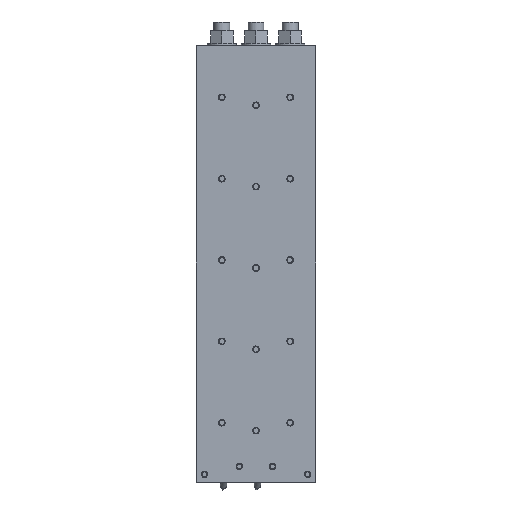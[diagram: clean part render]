
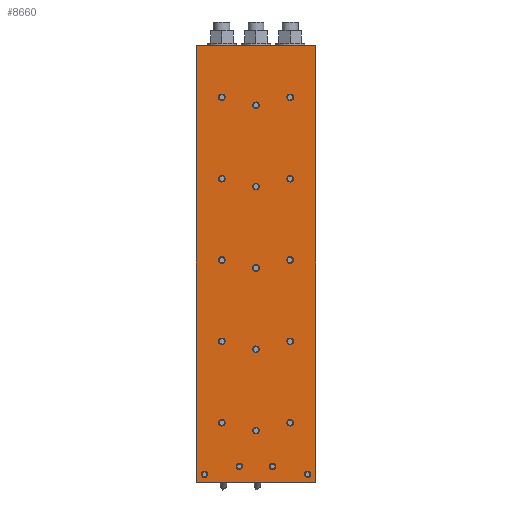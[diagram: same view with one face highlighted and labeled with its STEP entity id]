
A CAD part, top view. The second image highlights one B-rep face of the part: STEP entity #8660.
In plain terms, the highlighted planar face has unit normal (0, 0, 1).
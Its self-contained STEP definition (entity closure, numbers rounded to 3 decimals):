
#592=LINE('',#15161,#1080);
#595=LINE('',#15167,#1083);
#598=LINE('',#15173,#1086);
#601=LINE('',#15178,#1089);
#1080=VECTOR('',#12740,1000.);
#1083=VECTOR('',#12745,1000.);
#1086=VECTOR('',#12750,1000.);
#1089=VECTOR('',#12755,1000.);
#1613=PLANE('',#10304);
#3559=ORIENTED_EDGE('',*,*,#4634,.F.);
#3560=ORIENTED_EDGE('',*,*,#4635,.F.);
#3561=ORIENTED_EDGE('',*,*,#4636,.F.);
#3562=ORIENTED_EDGE('',*,*,#4637,.F.);
#3563=ORIENTED_EDGE('',*,*,#4638,.F.);
#3564=ORIENTED_EDGE('',*,*,#4639,.F.);
#3565=ORIENTED_EDGE('',*,*,#4640,.F.);
#3566=ORIENTED_EDGE('',*,*,#4641,.F.);
#3567=ORIENTED_EDGE('',*,*,#4642,.F.);
#3568=ORIENTED_EDGE('',*,*,#4643,.F.);
#3569=ORIENTED_EDGE('',*,*,#4644,.F.);
#3570=ORIENTED_EDGE('',*,*,#4645,.F.);
#3571=ORIENTED_EDGE('',*,*,#4646,.F.);
#3572=ORIENTED_EDGE('',*,*,#4647,.F.);
#3573=ORIENTED_EDGE('',*,*,#4648,.F.);
#3574=ORIENTED_EDGE('',*,*,#4649,.F.);
#3575=ORIENTED_EDGE('',*,*,#4650,.F.);
#3576=ORIENTED_EDGE('',*,*,#4651,.F.);
#3577=ORIENTED_EDGE('',*,*,#4652,.F.);
#3578=ORIENTED_EDGE('',*,*,#4624,.F.);
#3579=ORIENTED_EDGE('',*,*,#4633,.F.);
#3580=ORIENTED_EDGE('',*,*,#4630,.F.);
#3581=ORIENTED_EDGE('',*,*,#4627,.F.);
#4624=EDGE_CURVE('',#5427,#5428,#592,.T.);
#4627=EDGE_CURVE('',#5428,#5430,#595,.T.);
#4630=EDGE_CURVE('',#5430,#5432,#598,.T.);
#4633=EDGE_CURVE('',#5432,#5427,#601,.T.);
#4634=EDGE_CURVE('',#5433,#5433,#5798,.T.);
#4635=EDGE_CURVE('',#5434,#5434,#5799,.T.);
#4636=EDGE_CURVE('',#5435,#5435,#5800,.T.);
#4637=EDGE_CURVE('',#5436,#5436,#5801,.T.);
#4638=EDGE_CURVE('',#5437,#5437,#5802,.T.);
#4639=EDGE_CURVE('',#5438,#5438,#5803,.T.);
#4640=EDGE_CURVE('',#5439,#5439,#5804,.T.);
#4641=EDGE_CURVE('',#5440,#5440,#5805,.T.);
#4642=EDGE_CURVE('',#5441,#5441,#5806,.T.);
#4643=EDGE_CURVE('',#5442,#5442,#5807,.T.);
#4644=EDGE_CURVE('',#5443,#5443,#5808,.T.);
#4645=EDGE_CURVE('',#5444,#5444,#5809,.T.);
#4646=EDGE_CURVE('',#5445,#5445,#5810,.T.);
#4647=EDGE_CURVE('',#5446,#5446,#5811,.T.);
#4648=EDGE_CURVE('',#5447,#5447,#5812,.T.);
#4649=EDGE_CURVE('',#5448,#5448,#5813,.T.);
#4650=EDGE_CURVE('',#5449,#5449,#5814,.T.);
#4651=EDGE_CURVE('',#5450,#5450,#5815,.T.);
#4652=EDGE_CURVE('',#5451,#5451,#5816,.T.);
#5427=VERTEX_POINT('',#15160);
#5428=VERTEX_POINT('',#15162);
#5430=VERTEX_POINT('',#15168);
#5432=VERTEX_POINT('',#15174);
#5433=VERTEX_POINT('',#15181);
#5434=VERTEX_POINT('',#15183);
#5435=VERTEX_POINT('',#15185);
#5436=VERTEX_POINT('',#15187);
#5437=VERTEX_POINT('',#15189);
#5438=VERTEX_POINT('',#15191);
#5439=VERTEX_POINT('',#15193);
#5440=VERTEX_POINT('',#15195);
#5441=VERTEX_POINT('',#15197);
#5442=VERTEX_POINT('',#15199);
#5443=VERTEX_POINT('',#15201);
#5444=VERTEX_POINT('',#15203);
#5445=VERTEX_POINT('',#15205);
#5446=VERTEX_POINT('',#15207);
#5447=VERTEX_POINT('',#15209);
#5448=VERTEX_POINT('',#15211);
#5449=VERTEX_POINT('',#15213);
#5450=VERTEX_POINT('',#15215);
#5451=VERTEX_POINT('',#15217);
#5798=CIRCLE('',#10305,3.324);
#5799=CIRCLE('',#10306,3.324);
#5800=CIRCLE('',#10307,3.324);
#5801=CIRCLE('',#10308,3.324);
#5802=CIRCLE('',#10309,4.188);
#5803=CIRCLE('',#10310,4.188);
#5804=CIRCLE('',#10311,4.188);
#5805=CIRCLE('',#10312,4.188);
#5806=CIRCLE('',#10313,4.188);
#5807=CIRCLE('',#10314,4.188);
#5808=CIRCLE('',#10315,4.188);
#5809=CIRCLE('',#10316,4.188);
#5810=CIRCLE('',#10317,4.188);
#5811=CIRCLE('',#10318,4.188);
#5812=CIRCLE('',#10319,4.188);
#5813=CIRCLE('',#10320,4.188);
#5814=CIRCLE('',#10321,4.188);
#5815=CIRCLE('',#10322,4.188);
#5816=CIRCLE('',#10323,4.188);
#6808=EDGE_LOOP('',(#3559));
#6809=EDGE_LOOP('',(#3560));
#6810=EDGE_LOOP('',(#3561));
#6811=EDGE_LOOP('',(#3562));
#6812=EDGE_LOOP('',(#3563));
#6813=EDGE_LOOP('',(#3564));
#6814=EDGE_LOOP('',(#3565));
#6815=EDGE_LOOP('',(#3566));
#6816=EDGE_LOOP('',(#3567));
#6817=EDGE_LOOP('',(#3568));
#6818=EDGE_LOOP('',(#3569));
#6819=EDGE_LOOP('',(#3570));
#6820=EDGE_LOOP('',(#3571));
#6821=EDGE_LOOP('',(#3572));
#6822=EDGE_LOOP('',(#3573));
#6823=EDGE_LOOP('',(#3574));
#6824=EDGE_LOOP('',(#3575));
#6825=EDGE_LOOP('',(#3576));
#6826=EDGE_LOOP('',(#3577));
#6827=EDGE_LOOP('',(#3578,#3579,#3580,#3581));
#7918=FACE_BOUND('',#6808,.T.);
#7919=FACE_BOUND('',#6809,.T.);
#7920=FACE_BOUND('',#6810,.T.);
#7921=FACE_BOUND('',#6811,.T.);
#7922=FACE_BOUND('',#6812,.T.);
#7923=FACE_BOUND('',#6813,.T.);
#7924=FACE_BOUND('',#6814,.T.);
#7925=FACE_BOUND('',#6815,.T.);
#7926=FACE_BOUND('',#6816,.T.);
#7927=FACE_BOUND('',#6817,.T.);
#7928=FACE_BOUND('',#6818,.T.);
#7929=FACE_BOUND('',#6819,.T.);
#7930=FACE_BOUND('',#6820,.T.);
#7931=FACE_BOUND('',#6821,.T.);
#7932=FACE_BOUND('',#6822,.T.);
#7933=FACE_BOUND('',#6823,.T.);
#7934=FACE_BOUND('',#6824,.T.);
#7935=FACE_BOUND('',#6825,.T.);
#7936=FACE_BOUND('',#6826,.T.);
#7937=FACE_BOUND('',#6827,.T.);
#8660=ADVANCED_FACE('',(#7918,#7919,#7920,#7921,#7922,#7923,#7924,#7925,
#7926,#7927,#7928,#7929,#7930,#7931,#7932,#7933,#7934,#7935,#7936,#7937),
#1613,.F.);
#10304=AXIS2_PLACEMENT_3D('',#15179,#12756,#12757);
#10305=AXIS2_PLACEMENT_3D('',#15180,#12758,#12759);
#10306=AXIS2_PLACEMENT_3D('',#15182,#12760,#12761);
#10307=AXIS2_PLACEMENT_3D('',#15184,#12762,#12763);
#10308=AXIS2_PLACEMENT_3D('',#15186,#12764,#12765);
#10309=AXIS2_PLACEMENT_3D('',#15188,#12766,#12767);
#10310=AXIS2_PLACEMENT_3D('',#15190,#12768,#12769);
#10311=AXIS2_PLACEMENT_3D('',#15192,#12770,#12771);
#10312=AXIS2_PLACEMENT_3D('',#15194,#12772,#12773);
#10313=AXIS2_PLACEMENT_3D('',#15196,#12774,#12775);
#10314=AXIS2_PLACEMENT_3D('',#15198,#12776,#12777);
#10315=AXIS2_PLACEMENT_3D('',#15200,#12778,#12779);
#10316=AXIS2_PLACEMENT_3D('',#15202,#12780,#12781);
#10317=AXIS2_PLACEMENT_3D('',#15204,#12782,#12783);
#10318=AXIS2_PLACEMENT_3D('',#15206,#12784,#12785);
#10319=AXIS2_PLACEMENT_3D('',#15208,#12786,#12787);
#10320=AXIS2_PLACEMENT_3D('',#15210,#12788,#12789);
#10321=AXIS2_PLACEMENT_3D('',#15212,#12790,#12791);
#10322=AXIS2_PLACEMENT_3D('',#15214,#12792,#12793);
#10323=AXIS2_PLACEMENT_3D('',#15216,#12794,#12795);
#12740=DIRECTION('',(-1.,0.,0.));
#12745=DIRECTION('',(0.,1.,0.));
#12750=DIRECTION('',(1.,0.,0.));
#12755=DIRECTION('',(0.,-1.,0.));
#12756=DIRECTION('',(0.,0.,-1.));
#12757=DIRECTION('',(-1.,0.,0.));
#12758=DIRECTION('',(0.,0.,1.));
#12759=DIRECTION('',(1.,0.,0.));
#12760=DIRECTION('',(0.,0.,1.));
#12761=DIRECTION('',(1.,0.,0.));
#12762=DIRECTION('',(0.,0.,1.));
#12763=DIRECTION('',(1.,0.,0.));
#12764=DIRECTION('',(0.,0.,1.));
#12765=DIRECTION('',(1.,0.,0.));
#12766=DIRECTION('',(0.,0.,1.));
#12767=DIRECTION('',(1.,0.,0.));
#12768=DIRECTION('',(0.,0.,1.));
#12769=DIRECTION('',(1.,0.,0.));
#12770=DIRECTION('',(0.,0.,1.));
#12771=DIRECTION('',(1.,0.,0.));
#12772=DIRECTION('',(0.,0.,1.));
#12773=DIRECTION('',(1.,0.,0.));
#12774=DIRECTION('',(0.,0.,1.));
#12775=DIRECTION('',(1.,0.,0.));
#12776=DIRECTION('',(0.,0.,1.));
#12777=DIRECTION('',(1.,0.,0.));
#12778=DIRECTION('',(0.,0.,1.));
#12779=DIRECTION('',(1.,0.,0.));
#12780=DIRECTION('',(0.,0.,1.));
#12781=DIRECTION('',(1.,0.,0.));
#12782=DIRECTION('',(0.,0.,1.));
#12783=DIRECTION('',(1.,0.,0.));
#12784=DIRECTION('',(0.,0.,1.));
#12785=DIRECTION('',(1.,0.,0.));
#12786=DIRECTION('',(0.,0.,1.));
#12787=DIRECTION('',(1.,0.,0.));
#12788=DIRECTION('',(0.,0.,1.));
#12789=DIRECTION('',(1.,0.,0.));
#12790=DIRECTION('',(0.,0.,1.));
#12791=DIRECTION('',(1.,0.,0.));
#12792=DIRECTION('',(0.,0.,1.));
#12793=DIRECTION('',(1.,0.,0.));
#12794=DIRECTION('',(0.,0.,1.));
#12795=DIRECTION('',(1.,0.,0.));
#15160=CARTESIAN_POINT('',(153.51,0.398,20.));
#15161=CARTESIAN_POINT('',(150.,0.398,20.));
#15162=CARTESIAN_POINT('',(3.51,0.398,20.));
#15167=CARTESIAN_POINT('',(3.51,0.,20.));
#15168=CARTESIAN_POINT('',(3.51,550.398,20.));
#15173=CARTESIAN_POINT('',(0.,550.398,20.));
#15174=CARTESIAN_POINT('',(153.51,550.398,20.));
#15178=CARTESIAN_POINT('',(153.51,550.,20.));
#15179=CARTESIAN_POINT('',(0.,0.,20.));
#15180=CARTESIAN_POINT('',(99.51,19.464,20.));
#15181=CARTESIAN_POINT('',(102.833,19.464,20.));
#15182=CARTESIAN_POINT('',(57.51,20.396,20.));
#15183=CARTESIAN_POINT('',(60.833,20.396,20.));
#15184=CARTESIAN_POINT('',(13.51,10.398,20.));
#15185=CARTESIAN_POINT('',(16.833,10.398,20.));
#15186=CARTESIAN_POINT('',(143.51,10.398,20.));
#15187=CARTESIAN_POINT('',(146.833,10.398,20.));
#15188=CARTESIAN_POINT('',(78.51,475.4,20.));
#15189=CARTESIAN_POINT('',(82.698,475.4,20.));
#15190=CARTESIAN_POINT('',(78.51,372.9,20.));
#15191=CARTESIAN_POINT('',(82.698,372.9,20.));
#15192=CARTESIAN_POINT('',(78.51,270.4,20.));
#15193=CARTESIAN_POINT('',(82.698,270.4,20.));
#15194=CARTESIAN_POINT('',(78.51,167.9,20.));
#15195=CARTESIAN_POINT('',(82.698,167.9,20.));
#15196=CARTESIAN_POINT('',(78.51,65.4,20.));
#15197=CARTESIAN_POINT('',(82.698,65.4,20.));
#15198=CARTESIAN_POINT('',(121.51,75.398,20.));
#15199=CARTESIAN_POINT('',(125.698,75.398,20.));
#15200=CARTESIAN_POINT('',(121.51,177.898,20.));
#15201=CARTESIAN_POINT('',(125.698,177.898,20.));
#15202=CARTESIAN_POINT('',(121.51,280.398,20.));
#15203=CARTESIAN_POINT('',(125.698,280.398,20.));
#15204=CARTESIAN_POINT('',(121.51,382.898,20.));
#15205=CARTESIAN_POINT('',(125.698,382.898,20.));
#15206=CARTESIAN_POINT('',(121.51,485.398,20.));
#15207=CARTESIAN_POINT('',(125.698,485.398,20.));
#15208=CARTESIAN_POINT('',(35.51,485.398,20.));
#15209=CARTESIAN_POINT('',(39.698,485.398,20.));
#15210=CARTESIAN_POINT('',(35.51,382.898,20.));
#15211=CARTESIAN_POINT('',(39.698,382.898,20.));
#15212=CARTESIAN_POINT('',(35.51,280.398,20.));
#15213=CARTESIAN_POINT('',(39.698,280.398,20.));
#15214=CARTESIAN_POINT('',(35.51,177.898,20.));
#15215=CARTESIAN_POINT('',(39.698,177.898,20.));
#15216=CARTESIAN_POINT('',(35.51,75.398,20.));
#15217=CARTESIAN_POINT('',(39.698,75.398,20.));
